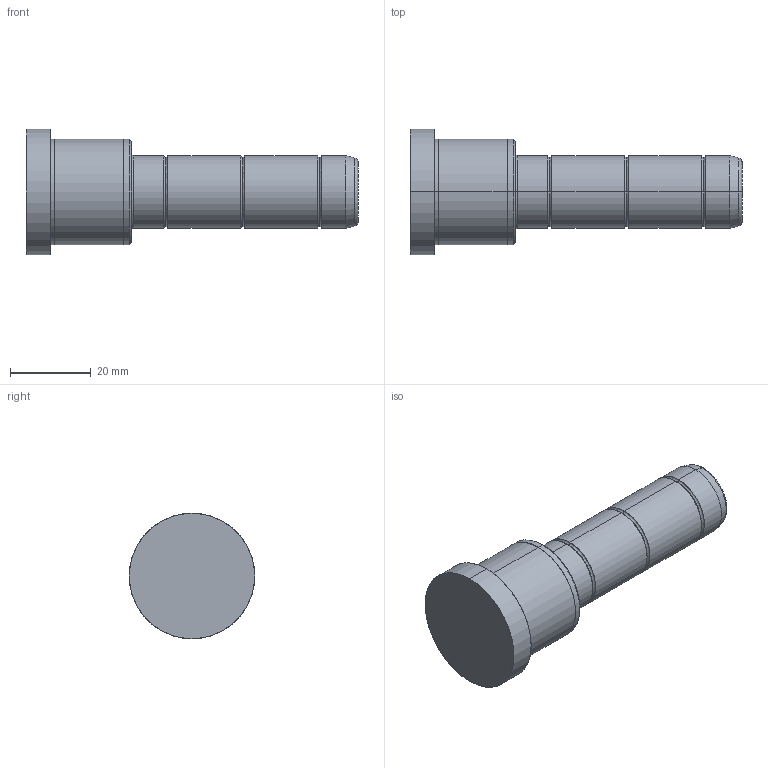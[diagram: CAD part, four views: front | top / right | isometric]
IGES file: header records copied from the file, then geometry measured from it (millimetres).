
Start section: SolidWorks IGES file using analytic representation for surfaces
Global section: file name: C:\Documents and Settings\kalite-mail\Desktop\IGS\D02\18\D02 - 18x26x56.IGS; native system: SolidWorks 2008; preprocessor: SolidWorks 2008; author: kalite-mail; date: 080616.150023; units: millimetre
Bounding box: 82 x 31 x 31 mm (x, y, z)
Surface area: 6890.9 mm2 (no closed solid volume)
Topology: 0 solids, 0 shells, 42 faces, 528 edges, 528 vertices
Faces by surface type: bspline 22, revolution 20
